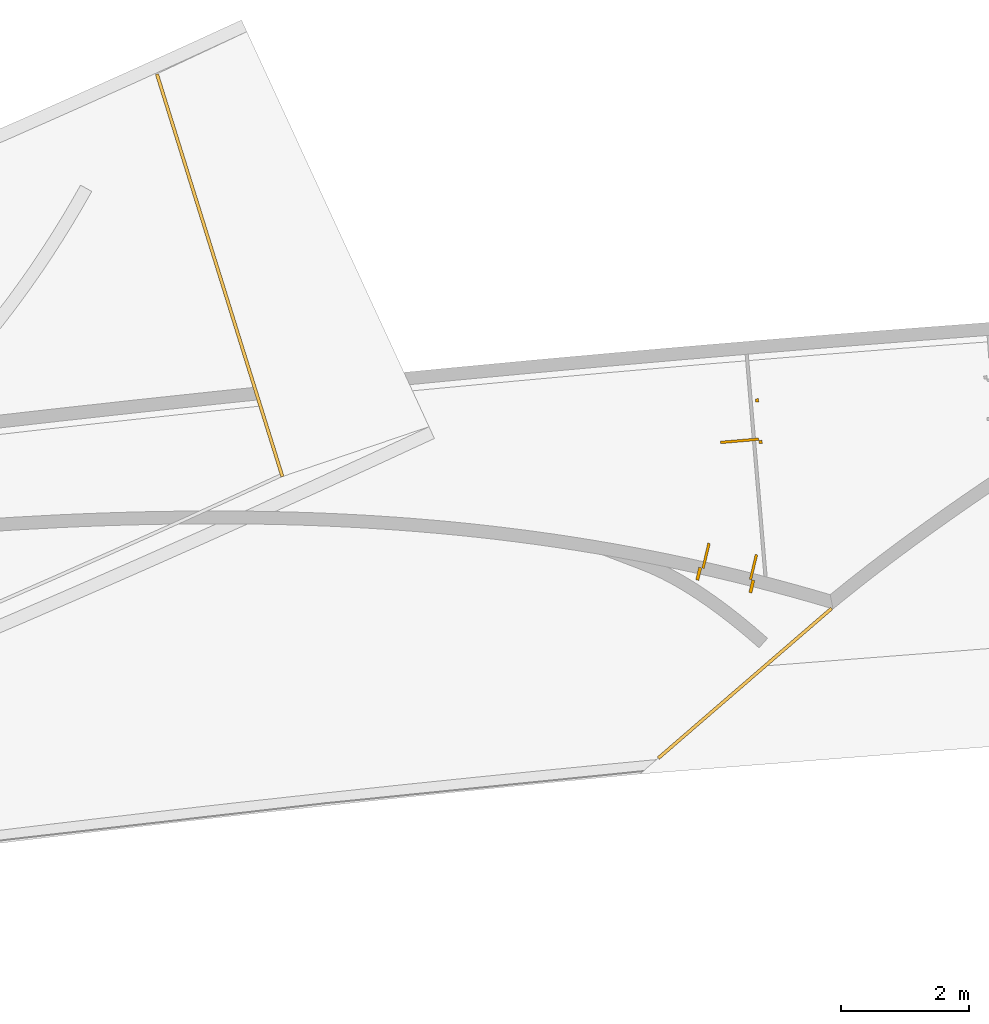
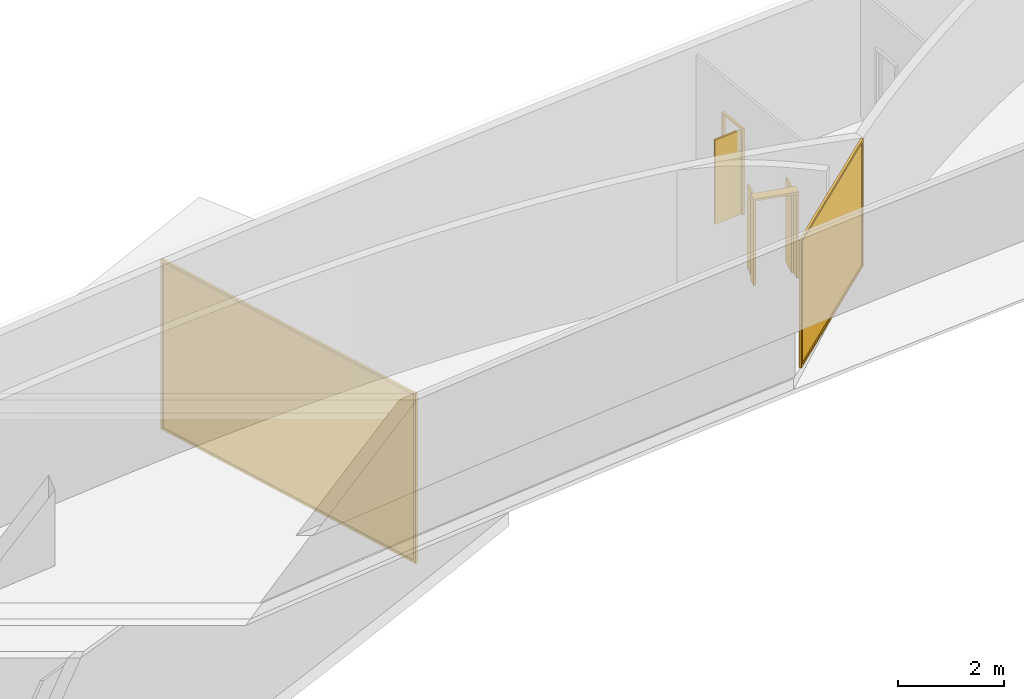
# Not in any storey, part 15 of 16: 2 curtain walls, 2 doors.
"""IFC2X3 model written with IfcOpenShell, lengths in millimetres."""

from ifc_helpers import new_model, entity, si_unit, converted_unit, direction, frame, origin_with_axes, place, context, project, spatial, open_shell, faceted_brep, surface_model, source, transform, mapped, type_object, element, save


model = new_model("IFC2X3")

# Units and contexts
model_context = context("Model", 3, precision=1.0, world=origin_with_axes(), true_north=direction((0.0, 1.0)))
ifc_project = project(units=[converted_unit("PLANEANGLEUNIT", "DEGREE", entity("IfcRatioMeasure", 0.017453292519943), si_unit("PLANEANGLEUNIT", "RADIAN"), dimensions=[0, 0, 0, 0, 0, 0, 0]), si_unit("LENGTHUNIT", "METRE", prefix="MILLI")], contexts=[model_context])

# Site
site_placement = place(None, origin_with_axes())
site = spatial("IfcSite", under=ifc_project, at=site_placement, Name="Site", CompositionType="ELEMENT")

# Doors
door_style_1 = type_object("IfcDoorStyle", Name="Hinged Double", ConstructionType="NOTDEFINED", OperationType="DOUBLE_DOOR_SINGLE_SWING", ParameterTakesPrecedence=True, Sizeable=False)
shared_shape_1 = source(origin_with_axes(), model_context, "Body", "Brep", [
    faceted_brep([(-400.0, -100.0, 975.0), (-400.0, -100.0, 0.0), (-400.0, 0.0, 0.0), (-400.0, 100.0, 0.0), (-400.0, 100.0, 975.0), (-400.0, 100.0, 1950.0), (-400.0, -100.0, 1950.0), (-400.0, -100.0, 1950.0), (-400.0, 100.0, 1950.0), (-3.638e-12, 100.0, 1950.0), (400.0, 100.0, 1950.0), (400.0, -100.0, 1950.0), (0.0, -100.0, 1950.0), (400.0, -100.0, 1950.0), (400.0, 100.0, 1950.0), (400.0, 100.0, 975.0), (400.0, 100.0, 0.0), (400.0, 0.0, 0.0), (400.0, -100.0, 0.0), (400.0, -100.0, 975.0), (400.0, -100.0, 0.0), (450.0, -100.0, 0.0), (450.0, -100.0, 1000.0), (450.0, -100.0, 2000.0), (0.0, -100.0, 2000.0), (-450.0, -100.0, 2000.0), (-450.0, -100.0, 1000.0), (-450.0, -100.0, 0.0), (-400.0, -100.0, 0.0), (-400.0, -100.0, 975.0), (-400.0, -100.0, 1950.0), (0.0, -100.0, 1950.0), (400.0, -100.0, 1950.0), (400.0, -100.0, 975.0), (-450.0, -100.0, 2000.0), (-450.0, 100.0, 2000.0), (-450.0, 100.0, 1000.0), (-450.0, 100.0, 0.0), (-450.0, 0.0, 0.0), (-450.0, -100.0, 0.0), (-450.0, -100.0, 1000.0), (-400.0, -100.0, 0.0), (-450.0, -100.0, 0.0), (-450.0, 0.0, 0.0), (-450.0, 100.0, 0.0), (-400.0, 100.0, 0.0), (-400.0, 0.0, 0.0), (450.0, 100.0, 0.0), (400.0, 100.0, 0.0), (400.0, 100.0, 975.0), (400.0, 100.0, 1950.0), (-3.638e-12, 100.0, 1950.0), (-400.0, 100.0, 1950.0), (-400.0, 100.0, 975.0), (-400.0, 100.0, 0.0), (-450.0, 100.0, 0.0), (-450.0, 100.0, 1000.0), (-450.0, 100.0, 2000.0), (-3.638e-12, 100.0, 2000.0), (450.0, 100.0, 2000.0), (450.0, 100.0, 1000.0), (450.0, -100.0, 0.0), (400.0, -100.0, 0.0), (400.0, 0.0, 0.0), (400.0, 100.0, 0.0), (450.0, 100.0, 0.0), (450.0, 0.0, 0.0), (450.0, -100.0, 2000.0), (450.0, 100.0, 2000.0), (-3.638e-12, 100.0, 2000.0), (-450.0, 100.0, 2000.0), (-450.0, -100.0, 2000.0), (0.0, -100.0, 2000.0), (450.0, -100.0, 1000.0), (450.0, -100.0, 0.0), (450.0, 0.0, 0.0), (450.0, 100.0, 0.0), (450.0, 100.0, 1000.0), (450.0, 100.0, 2000.0), (450.0, -100.0, 2000.0)], [[[0, 1, 2, 3, 4, 5, 6]], [[7, 8, 9, 10, 11, 12]], [[13, 14, 15, 16, 17, 18, 19]], [[20, 21, 22, 23, 24, 25, 26, 27, 28, 29, 30, 31, 32, 33]], [[34, 35, 36, 37, 38, 39, 40]], [[41, 42, 43, 44, 45, 46]], [[47, 48, 49, 50, 51, 52, 53, 54, 55, 56, 57, 58, 59, 60]], [[61, 62, 63, 64, 65, 66]], [[67, 68, 69, 70, 71, 72]], [[73, 74, 75, 76, 77, 78, 79]]]),
    faceted_brep([(360.0, 100.0, 1950.0), (400.0, 100.0, 1950.0), (400.0, 300.0, 1950.0), (400.0, 500.0, 1950.0), (360.0, 500.0, 1950.0), (360.0, 300.0, 1950.0), (360.0, 500.0, 0.0), (400.0, 500.0, 0.0), (400.0, 300.0, 0.0), (400.0, 100.0, 0.0), (360.0, 100.0, 0.0), (360.0, 300.0, 0.0), (360.0, 500.0, 1950.0), (400.0, 500.0, 1950.0), (400.0, 500.0, 975.0), (400.0, 500.0, 0.0), (360.0, 500.0, 0.0), (360.0, 500.0, 975.0), (360.0, 100.0, 0.0), (400.0, 100.0, 0.0), (400.0, 100.0, 975.0), (400.0, 100.0, 1950.0), (360.0, 100.0, 1950.0), (360.0, 100.0, 975.0), (360.0, 500.0, 975.0), (360.0, 500.0, 0.0), (360.0, 300.0, 0.0), (360.0, 100.0, 0.0), (360.0, 100.0, 975.0), (360.0, 100.0, 1950.0), (360.0, 300.0, 1950.0), (360.0, 500.0, 1950.0), (400.0, 100.0, 975.0), (400.0, 100.0, 0.0), (400.0, 300.0, 0.0), (400.0, 500.0, 0.0), (400.0, 500.0, 975.0), (400.0, 500.0, 1950.0), (400.0, 300.0, 1950.0), (400.0, 100.0, 1950.0)], [[[0, 1, 2, 3, 4, 5]], [[6, 7, 8, 9, 10, 11]], [[12, 13, 14, 15, 16, 17]], [[18, 19, 20, 21, 22, 23]], [[24, 25, 26, 27, 28, 29, 30, 31]], [[32, 33, 34, 35, 36, 37, 38, 39]]]),
    faceted_brep([(-360.0, 100.0, 1950.0), (-400.0, 100.0, 1950.0), (-400.0, 100.0, 975.0), (-400.0, 100.0, 0.0), (-360.0, 100.0, 0.0), (-360.0, 100.0, 975.0), (-360.0, 100.0, 0.0), (-400.0, 100.0, 0.0), (-400.0, 300.0, 0.0), (-400.0, 500.0, 0.0), (-360.0, 500.0, 0.0), (-360.0, 300.0, 0.0), (-400.0, 100.0, 975.0), (-400.0, 100.0, 1950.0), (-400.0, 300.0, 1950.0), (-400.0, 500.0, 1950.0), (-400.0, 500.0, 975.0), (-400.0, 500.0, 0.0), (-400.0, 300.0, 0.0), (-400.0, 100.0, 0.0), (-360.0, 500.0, 1950.0), (-400.0, 500.0, 1950.0), (-400.0, 300.0, 1950.0), (-400.0, 100.0, 1950.0), (-360.0, 100.0, 1950.0), (-360.0, 300.0, 1950.0), (-360.0, 500.0, 975.0), (-360.0, 500.0, 1950.0), (-360.0, 300.0, 1950.0), (-360.0, 100.0, 1950.0), (-360.0, 100.0, 975.0), (-360.0, 100.0, 0.0), (-360.0, 300.0, 0.0), (-360.0, 500.0, 0.0), (-360.0, 500.0, 0.0), (-400.0, 500.0, 0.0), (-400.0, 500.0, 975.0), (-400.0, 500.0, 1950.0), (-360.0, 500.0, 1950.0), (-360.0, 500.0, 975.0)], [[[0, 1, 2, 3, 4, 5]], [[6, 7, 8, 9, 10, 11]], [[12, 13, 14, 15, 16, 17, 18, 19]], [[20, 21, 22, 23, 24, 25]], [[26, 27, 28, 29, 30, 31, 32, 33]], [[34, 35, 36, 37, 38, 39]]]),
])
door_1_placement = place(site_placement, frame((41443.7975790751, 10267.3469635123, 9850.00000000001), z_axis=(0.0, 0.0, 1.0), x_axis=(0.972727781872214, -0.231949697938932, 0.0)))
element("IfcDoor", 1, at=door_1_placement, inside=site, type_object=door_style_1, ObjectType="Hinged Double", OverallHeight=2000.0, OverallWidth=900.0, context=model_context, shape_type="MappedRepresentation", body=[
    mapped(shared_shape_1, transform((0.0, 0.0, 0.0))),
])
door_style_2 = type_object("IfcDoorStyle", Name="Hinged", ConstructionType="NOTDEFINED", OperationType="SINGLE_SWING_RIGHT", ParameterTakesPrecedence=True, Sizeable=False)
shared_shape_2 = source(origin_with_axes(), model_context, "Body", "Brep", [
    faceted_brep([(-260.0, 25.0, 0.0), (-300.0, 25.0, 0.0), (-300.0, 325.0, 0.0), (-300.0, 625.0, 0.0), (-260.0, 625.0, 0.0), (-260.0, 325.0, 0.0), (-260.0, 25.0, 1950.0), (-300.0, 25.0, 1950.0), (-300.0, 25.0, 975.0), (-300.0, 25.0, 0.0), (-260.0, 25.0, 0.0), (-260.0, 25.0, 975.0), (-260.0, 625.0, 0.0), (-300.0, 625.0, 0.0), (-300.0, 625.0, 975.0), (-300.0, 625.0, 1950.0), (-260.0, 625.0, 1950.0), (-260.0, 625.0, 975.0), (-260.0, 625.0, 975.0), (-260.0, 625.0, 1950.0), (-260.0, 325.0, 1950.0), (-260.0, 25.0, 1950.0), (-260.0, 25.0, 975.0), (-260.0, 25.0, 0.0), (-260.0, 325.0, 0.0), (-260.0, 625.0, 0.0), (-260.0, 625.0, 1950.0), (-300.0, 625.0, 1950.0), (-300.0, 325.0, 1950.0), (-300.0, 25.0, 1950.0), (-260.0, 25.0, 1950.0), (-260.0, 325.0, 1950.0), (-300.0, 625.0, 0.0), (-300.0, 325.0, 0.0), (-300.0, 25.0, 0.0), (-300.0, 25.0, 975.0), (-300.0, 25.0, 1950.0), (-300.0, 325.0, 1950.0), (-300.0, 625.0, 1950.0), (-300.0, 625.0, 975.0)], [[[0, 1, 2, 3, 4, 5]], [[6, 7, 8, 9, 10, 11]], [[12, 13, 14, 15, 16, 17]], [[18, 19, 20, 21, 22, 23, 24, 25]], [[26, 27, 28, 29, 30, 31]], [[32, 33, 34, 35, 36, 37, 38, 39]]]),
    faceted_brep([(-300.0, -25.0, 1950.0), (-300.0, 25.0, 1950.0), (-2.728e-12, 25.0, 1950.0), (300.0, 25.0, 1950.0), (300.0, -25.0, 1950.0), (-9.09e-13, -25.0, 1950.0), (300.0, -25.0, 1950.0), (300.0, 25.0, 1950.0), (300.0, 25.0, 975.0), (300.0, 25.0, 0.0), (300.0, 0.0, 0.0), (300.0, -25.0, 0.0), (300.0, -25.0, 975.0), (350.0, -25.0, 0.0), (350.0, -25.0, 1000.0), (350.0, -25.0, 2000.0), (0.0, -25.0, 2000.0), (-350.0, -25.0, 2000.0), (-350.0, -25.0, 1000.0), (-350.0, -25.0, 0.0), (-325.0, -25.0, 0.0), (-300.0, -25.0, 0.0), (-300.0, -25.0, 975.0), (-300.0, -25.0, 1950.0), (-9.09e-13, -25.0, 1950.0), (300.0, -25.0, 1950.0), (300.0, -25.0, 975.0), (300.0, -25.0, 0.0), (325.0, -25.0, 0.0), (-300.0, -25.0, 975.0), (-300.0, -25.0, 0.0), (-300.0, 0.0, 0.0), (-300.0, 25.0, 0.0), (-300.0, 25.0, 975.0), (-300.0, 25.0, 1950.0), (-300.0, -25.0, 1950.0), (350.0, -25.0, 1000.0), (350.0, -25.0, 0.0), (350.0, -3.638e-12, 0.0), (350.0, 25.0, 0.0), (350.0, 25.0, 1000.0), (350.0, 25.0, 2000.0), (350.0, -25.0, 2000.0), (350.0, 25.0, 1000.0), (350.0, 25.0, 0.0), (325.0, 25.0, 0.0), (300.0, 25.0, 0.0), (300.0, 25.0, 975.0), (300.0, 25.0, 1950.0), (-2.728e-12, 25.0, 1950.0), (-300.0, 25.0, 1950.0), (-300.0, 25.0, 975.0), (-300.0, 25.0, 0.0), (-325.0, 25.0, 0.0), (-350.0, 25.0, 0.0), (-350.0, 25.0, 1000.0), (-350.0, 25.0, 2000.0), (-1.819e-12, 25.0, 2000.0), (350.0, 25.0, 2000.0), (-325.0, -25.0, 0.0), (-350.0, -25.0, 0.0), (-350.0, 0.0, 0.0), (-350.0, 25.0, 0.0), (-325.0, 25.0, 0.0), (-300.0, 25.0, 0.0), (-300.0, 0.0, 0.0), (-300.0, -25.0, 0.0), (350.0, -25.0, 2000.0), (350.0, 25.0, 2000.0), (-1.819e-12, 25.0, 2000.0), (-350.0, 25.0, 2000.0), (-350.0, -25.0, 2000.0), (0.0, -25.0, 2000.0), (-350.0, -25.0, 2000.0), (-350.0, 25.0, 2000.0), (-350.0, 25.0, 1000.0), (-350.0, 25.0, 0.0), (-350.0, 0.0, 0.0), (-350.0, -25.0, 0.0), (-350.0, -25.0, 1000.0), (325.0, -25.0, 0.0), (300.0, -25.0, 0.0), (300.0, 0.0, 0.0), (300.0, 25.0, 0.0), (325.0, 25.0, 0.0), (350.0, 25.0, 0.0), (350.0, -3.638e-12, 0.0), (350.0, -25.0, 0.0)], [[[0, 1, 2, 3, 4, 5]], [[6, 7, 8, 9, 10, 11, 12]], [[13, 14, 15, 16, 17, 18, 19, 20, 21, 22, 23, 24, 25, 26, 27, 28]], [[29, 30, 31, 32, 33, 34, 35]], [[36, 37, 38, 39, 40, 41, 42]], [[43, 44, 45, 46, 47, 48, 49, 50, 51, 52, 53, 54, 55, 56, 57, 58]], [[59, 60, 61, 62, 63, 64, 65, 66]], [[67, 68, 69, 70, 71, 72]], [[73, 74, 75, 76, 77, 78, 79]], [[80, 81, 82, 83, 84, 85, 86, 87]]]),
])
door_2_placement = place(site_placement, frame((41966.0721324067, 12745.1993192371, 9850.0), z_axis=(0.0, 0.0, 1.0), x_axis=(-0.084519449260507, 0.996421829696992, 0.0)))
element("IfcDoor", 2, at=door_2_placement, inside=site, type_object=door_style_2, ObjectType="Hinged", OverallHeight=2000.0, OverallWidth=700.0, context=model_context, shape_type="MappedRepresentation", body=[
    mapped(shared_shape_2, transform((0.0, 0.0, 0.0))),
])

# Curtain walls
curtain_wall_type = type_object("IfcCurtainWallType", Name="Single Panel", PredefinedType="USERDEFINED")
shared_shape_3 = source(origin_with_axes(), model_context, "Body", "SurfaceModel", [
    surface_model("IfcShellBasedSurfaceModel", [(0.0, 0.0, 2850.0), (0.0, 0.0, 0.0), (3468.23583984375, 0.0, 0.0), (3468.23583984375, 0.0, 2850.0)], [open_shell([[[0, 1, 2, 3]]])]),
])
shared_shape_4 = source(origin_with_axes(), model_context, "Body", "Brep", [
    faceted_brep([(43082.9921875, 9844.701171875, 12750.0), (43115.6875, 9806.8720703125, 12750.0), (43077.859375, 9774.1767578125, 12750.0), (41765.8515625, 8640.2421875, 12750.0), (40453.84765625, 7506.3076171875, 12750.0), (40416.01953125, 7473.61279296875, 12750.0), (40383.32421875, 7511.44189453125, 12750.0), (40421.15234375, 7544.13671875, 12750.0), (41733.15625, 8678.0712890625, 12750.0), (43045.1640625, 9812.005859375, 12750.0), (43115.6875, 9806.8720703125, 12800.0), (43082.9921875, 9844.701171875, 12800.0), (41733.15625, 8678.0712890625, 12800.0), (40383.32421875, 7511.44189453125, 12800.0), (40416.01953125, 7473.61279296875, 12800.0), (41765.8515625, 8640.2421875, 12800.0), (43082.9921875, 9844.701171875, 12800.0), (43082.9921875, 9844.701171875, 12750.0), (43045.1640625, 9812.005859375, 12750.0), (41733.15625, 8678.0712890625, 12750.0), (40421.15234375, 7544.13671875, 12750.0), (40383.32421875, 7511.44189453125, 12750.0), (40383.32421875, 7511.44189453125, 12800.0), (41733.15625, 8678.0712890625, 12800.0), (43115.6875, 9806.8720703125, 12750.0), (43082.9921875, 9844.701171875, 12750.0), (43082.9921875, 9844.701171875, 12800.0), (43115.6875, 9806.8720703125, 12800.0), (43115.6875, 9806.8720703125, 12750.0), (43115.6875, 9806.8720703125, 12800.0), (41765.8515625, 8640.2421875, 12800.0), (40416.01953125, 7473.61279296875, 12800.0), (40416.01953125, 7473.61279296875, 12750.0), (40453.84765625, 7506.3076171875, 12750.0), (41765.8515625, 8640.2421875, 12750.0), (43077.859375, 9774.1767578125, 12750.0), (40383.32421875, 7511.44189453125, 12750.0), (40416.01953125, 7473.61279296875, 12750.0), (40416.01953125, 7473.61279296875, 12800.0), (40383.32421875, 7511.44189453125, 12800.0)], [[[0, 1, 2, 3, 4, 5, 6, 7, 8, 9]], [[10, 11, 12, 13, 14, 15]], [[16, 17, 18, 19, 20, 21, 22, 23]], [[24, 25, 26, 27]], [[28, 29, 30, 31, 32, 33, 34, 35]], [[36, 37, 38, 39]]]),
    faceted_brep([(43045.1640625, 9812.005859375, 9900.0), (43061.51171875, 9793.091796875, 9900.0), (43077.859375, 9774.1767578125, 9900.0), (43077.859375, 9774.1767578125, 11325.0), (43077.859375, 9774.1767578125, 12750.0), (43061.51171875, 9793.091796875, 12750.0), (43045.1640625, 9812.005859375, 12750.0), (43045.1640625, 9812.005859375, 11325.0), (43077.859375, 9774.1767578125, 9900.0), (43096.7734375, 9790.5244140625, 9900.0), (43115.6875, 9806.8720703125, 9900.0), (43115.6875, 9806.8720703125, 11325.0), (43115.6875, 9806.8720703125, 12750.0), (43096.7734375, 9790.5244140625, 12750.0), (43077.859375, 9774.1767578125, 12750.0), (43077.859375, 9774.1767578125, 11325.0), (43115.6875, 9806.8720703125, 9900.0), (43082.9921875, 9844.701171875, 9900.0), (43082.9921875, 9844.701171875, 11325.0), (43082.9921875, 9844.701171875, 12750.0), (43115.6875, 9806.8720703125, 12750.0), (43115.6875, 9806.8720703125, 11325.0), (43077.859375, 9774.1767578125, 9900.0), (43061.51171875, 9793.091796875, 9900.0), (43045.1640625, 9812.005859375, 9900.0), (43064.078125, 9828.353515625, 9900.0), (43082.9921875, 9844.701171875, 9900.0), (43115.6875, 9806.8720703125, 9900.0), (43096.7734375, 9790.5244140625, 9900.0), (43077.859375, 9774.1767578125, 12750.0), (43096.7734375, 9790.5244140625, 12750.0), (43115.6875, 9806.8720703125, 12750.0), (43082.9921875, 9844.701171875, 12750.0), (43064.078125, 9828.353515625, 12750.0), (43045.1640625, 9812.005859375, 12750.0), (43061.51171875, 9793.091796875, 12750.0), (43082.9921875, 9844.701171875, 9900.0), (43064.078125, 9828.353515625, 9900.0), (43045.1640625, 9812.005859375, 9900.0), (43045.1640625, 9812.005859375, 11325.0), (43045.1640625, 9812.005859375, 12750.0), (43064.078125, 9828.353515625, 12750.0), (43082.9921875, 9844.701171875, 12750.0), (43082.9921875, 9844.701171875, 11325.0)], [[[0, 1, 2, 3, 4, 5, 6, 7]], [[8, 9, 10, 11, 12, 13, 14, 15]], [[16, 17, 18, 19, 20, 21]], [[22, 23, 24, 25, 26, 27, 28]], [[29, 30, 31, 32, 33, 34, 35]], [[36, 37, 38, 39, 40, 41, 42, 43]]]),
    faceted_brep([(43082.9921875, 9844.701171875, 9900.0), (43082.9921875, 9844.701171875, 9850.0), (41733.15625, 8678.0712890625, 9850.0), (40383.32421875, 7511.44189453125, 9850.0), (40383.32421875, 7511.44189453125, 9900.0), (40421.15234375, 7544.13671875, 9900.0), (41733.15625, 8678.0712890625, 9900.0), (43045.1640625, 9812.005859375, 9900.0), (43115.6875, 9806.8720703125, 9850.0), (43115.6875, 9806.8720703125, 9900.0), (43077.859375, 9774.1767578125, 9900.0), (41765.8515625, 8640.2421875, 9900.0), (40453.84765625, 7506.3076171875, 9900.0), (40416.01953125, 7473.61279296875, 9900.0), (40416.01953125, 7473.61279296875, 9850.0), (41765.8515625, 8640.2421875, 9850.0), (43115.6875, 9806.8720703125, 9900.0), (43082.9921875, 9844.701171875, 9900.0), (43045.1640625, 9812.005859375, 9900.0), (41733.15625, 8678.0712890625, 9900.0), (40421.15234375, 7544.13671875, 9900.0), (40383.32421875, 7511.44189453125, 9900.0), (40416.01953125, 7473.61279296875, 9900.0), (40453.84765625, 7506.3076171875, 9900.0), (41765.8515625, 8640.2421875, 9900.0), (43077.859375, 9774.1767578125, 9900.0), (43082.9921875, 9844.701171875, 9850.0), (43115.6875, 9806.8720703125, 9850.0), (41765.8515625, 8640.2421875, 9850.0), (40416.01953125, 7473.61279296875, 9850.0), (40383.32421875, 7511.44189453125, 9850.0), (41733.15625, 8678.0712890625, 9850.0), (43082.9921875, 9844.701171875, 9900.0), (43115.6875, 9806.8720703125, 9900.0), (43115.6875, 9806.8720703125, 9850.0), (43082.9921875, 9844.701171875, 9850.0), (40416.01953125, 7473.61279296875, 9900.0), (40383.32421875, 7511.44189453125, 9900.0), (40383.32421875, 7511.44189453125, 9850.0), (40416.01953125, 7473.61279296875, 9850.0)], [[[0, 1, 2, 3, 4, 5, 6, 7]], [[8, 9, 10, 11, 12, 13, 14, 15]], [[16, 17, 18, 19, 20, 21, 22, 23, 24, 25]], [[26, 27, 28, 29, 30, 31]], [[32, 33, 34, 35]], [[36, 37, 38, 39]]]),
    faceted_brep([(40416.01953125, 7473.61279296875, 9900.0), (40453.84765625, 7506.3076171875, 9900.0), (40453.84765625, 7506.3076171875, 11325.0), (40453.84765625, 7506.3076171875, 12750.0), (40416.01953125, 7473.61279296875, 12750.0), (40416.01953125, 7473.61279296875, 11325.0), (40383.32421875, 7511.44189453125, 9900.0), (40416.01953125, 7473.61279296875, 9900.0), (40416.01953125, 7473.61279296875, 11325.0), (40416.01953125, 7473.61279296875, 12750.0), (40383.32421875, 7511.44189453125, 12750.0), (40383.32421875, 7511.44189453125, 11325.0), (40421.15234375, 7544.13671875, 9900.0), (40383.32421875, 7511.44189453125, 9900.0), (40383.32421875, 7511.44189453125, 11325.0), (40383.32421875, 7511.44189453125, 12750.0), (40421.15234375, 7544.13671875, 12750.0), (40421.15234375, 7544.13671875, 11325.0), (40453.84765625, 7506.3076171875, 9900.0), (40421.15234375, 7544.13671875, 9900.0), (40421.15234375, 7544.13671875, 11325.0), (40421.15234375, 7544.13671875, 12750.0), (40453.84765625, 7506.3076171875, 12750.0), (40453.84765625, 7506.3076171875, 11325.0), (40453.84765625, 7506.3076171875, 12750.0), (40421.15234375, 7544.13671875, 12750.0), (40383.32421875, 7511.44189453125, 12750.0), (40416.01953125, 7473.61279296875, 12750.0), (40421.15234375, 7544.13671875, 9900.0), (40453.84765625, 7506.3076171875, 9900.0), (40416.01953125, 7473.61279296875, 9900.0), (40383.32421875, 7511.44189453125, 9900.0)], [[[0, 1, 2, 3, 4, 5]], [[6, 7, 8, 9, 10, 11]], [[12, 13, 14, 15, 16, 17]], [[18, 19, 20, 21, 22, 23]], [[24, 25, 26, 27]], [[28, 29, 30, 31]]]),
])
shared_shape_5 = source(origin_with_axes(), model_context, "Body", "MappedRepresentation", [
    mapped(shared_shape_3, transform((43061.5100533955, 9793.09171349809, 9900.0), x_axis=(-0.756583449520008, -0.653897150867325, 0.0), y_axis=(0.653897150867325, -0.756583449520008, 0.0), scale=1.0)),
    mapped(shared_shape_4, transform((0.0, 0.0, 0.0))),
])
curtain_wall_1_placement = place(site_placement, origin_with_axes())
element("IfcCurtainWall", 3, at=curtain_wall_1_placement, inside=site, type_object=curtain_wall_type, ObjectType="Single Panel", context=model_context, shape_type="MappedRepresentation", body=[
    mapped(shared_shape_5, transform((0.0, 0.0, 0.0))),
])
shared_shape_6 = source(origin_with_axes(), model_context, "Body", "SurfaceModel", [
    surface_model("IfcShellBasedSurfaceModel", [(34526.41796875, 11929.65625, 8600.0), (34526.41796875, 11929.65625, 4770.0), (32601.486328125, 18104.86328125, 4770.0), (32601.486328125, 18104.86328125, 8600.0)], [open_shell([[[0, 1, 2, 3]]])]),
])
shared_shape_7 = source(origin_with_axes(), model_context, "Body", "Brep", [
    faceted_brep([(34565.1640625, 11889.361328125, 4770.0), (34517.4296875, 11874.4814453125, 4770.0), (34517.4296875, 11874.4814453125, 4720.0), (34565.1640625, 11889.361328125, 4720.0), (32562.73828125, 18145.158203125, 4770.0), (32610.47265625, 18160.0390625, 4770.0), (32610.47265625, 18160.0390625, 4720.0), (32562.73828125, 18145.158203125, 4720.0), (34517.4296875, 11874.4814453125, 4770.0), (34565.1640625, 11889.361328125, 4770.0), (34550.28515625, 11937.095703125, 4770.0), (33587.8203125, 15024.7001953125, 4770.0), (32625.353515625, 18112.3046875, 4770.0), (32610.47265625, 18160.0390625, 4770.0), (32562.73828125, 18145.158203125, 4770.0), (32577.619140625, 18097.423828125, 4770.0), (33540.0859375, 15009.8203125, 4770.0), (34502.55078125, 11922.2158203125, 4770.0), (34565.1640625, 11889.361328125, 4720.0), (34517.4296875, 11874.4814453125, 4720.0), (33540.0859375, 15009.8203125, 4720.0), (32562.73828125, 18145.158203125, 4720.0), (32610.47265625, 18160.0390625, 4720.0), (33587.8203125, 15024.7001953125, 4720.0), (34517.4296875, 11874.4814453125, 4720.0), (34517.4296875, 11874.4814453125, 4770.0), (34502.55078125, 11922.2158203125, 4770.0), (33540.0859375, 15009.8203125, 4770.0), (32577.619140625, 18097.423828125, 4770.0), (32562.73828125, 18145.158203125, 4770.0), (32562.73828125, 18145.158203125, 4720.0), (33540.0859375, 15009.8203125, 4720.0), (34565.1640625, 11889.361328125, 4770.0), (34565.1640625, 11889.361328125, 4720.0), (33587.8203125, 15024.7001953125, 4720.0), (32610.47265625, 18160.0390625, 4720.0), (32610.47265625, 18160.0390625, 4770.0), (32625.353515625, 18112.3046875, 4770.0), (33587.8203125, 15024.7001953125, 4770.0), (34550.28515625, 11937.095703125, 4770.0)], [[[0, 1, 2, 3]], [[4, 5, 6, 7]], [[8, 9, 10, 11, 12, 13, 14, 15, 16, 17]], [[18, 19, 20, 21, 22, 23]], [[24, 25, 26, 27, 28, 29, 30, 31]], [[32, 33, 34, 35, 36, 37, 38, 39]]]),
    faceted_brep([(32562.73828125, 18145.158203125, 4770.0), (32577.619140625, 18097.423828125, 4770.0), (32577.619140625, 18097.423828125, 6685.0), (32577.619140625, 18097.423828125, 8600.0), (32562.73828125, 18145.158203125, 8600.0), (32562.73828125, 18145.158203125, 6685.0), (32610.47265625, 18160.0390625, 4770.0), (32562.73828125, 18145.158203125, 4770.0), (32562.73828125, 18145.158203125, 6685.0), (32562.73828125, 18145.158203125, 8600.0), (32610.47265625, 18160.0390625, 8600.0), (32610.47265625, 18160.0390625, 6685.0), (32625.353515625, 18112.3046875, 4770.0), (32577.619140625, 18097.423828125, 4770.0), (32562.73828125, 18145.158203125, 4770.0), (32610.47265625, 18160.0390625, 4770.0), (32577.619140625, 18097.423828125, 8600.0), (32625.353515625, 18112.3046875, 8600.0), (32610.47265625, 18160.0390625, 8600.0), (32562.73828125, 18145.158203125, 8600.0), (32577.619140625, 18097.423828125, 4770.0), (32625.353515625, 18112.3046875, 4770.0), (32625.353515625, 18112.3046875, 6685.0), (32625.353515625, 18112.3046875, 8600.0), (32577.619140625, 18097.423828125, 8600.0), (32577.619140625, 18097.423828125, 6685.0), (32625.353515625, 18112.3046875, 4770.0), (32610.47265625, 18160.0390625, 4770.0), (32610.47265625, 18160.0390625, 6685.0), (32610.47265625, 18160.0390625, 8600.0), (32625.353515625, 18112.3046875, 8600.0), (32625.353515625, 18112.3046875, 6685.0)], [[[0, 1, 2, 3, 4, 5]], [[6, 7, 8, 9, 10, 11]], [[12, 13, 14, 15]], [[16, 17, 18, 19]], [[20, 21, 22, 23, 24, 25]], [[26, 27, 28, 29, 30, 31]]]),
    faceted_brep([(34517.4296875, 11874.4814453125, 8600.0), (34517.4296875, 11874.4814453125, 8650.0), (33540.0859375, 15009.8203125, 8650.0), (32562.73828125, 18145.158203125, 8650.0), (32562.73828125, 18145.158203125, 8600.0), (32577.619140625, 18097.423828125, 8600.0), (33540.0859375, 15009.8203125, 8600.0), (34502.55078125, 11922.2158203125, 8600.0), (34565.1640625, 11889.361328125, 8600.0), (34517.4296875, 11874.4814453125, 8600.0), (34502.55078125, 11922.2158203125, 8600.0), (33540.0859375, 15009.8203125, 8600.0), (32577.619140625, 18097.423828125, 8600.0), (32562.73828125, 18145.158203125, 8600.0), (32610.47265625, 18160.0390625, 8600.0), (32625.353515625, 18112.3046875, 8600.0), (33587.8203125, 15024.7001953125, 8600.0), (34550.28515625, 11937.095703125, 8600.0), (32610.47265625, 18160.0390625, 8600.0), (32562.73828125, 18145.158203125, 8600.0), (32562.73828125, 18145.158203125, 8650.0), (32610.47265625, 18160.0390625, 8650.0), (34517.4296875, 11874.4814453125, 8600.0), (34565.1640625, 11889.361328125, 8600.0), (34565.1640625, 11889.361328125, 8650.0), (34517.4296875, 11874.4814453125, 8650.0), (34565.1640625, 11889.361328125, 8650.0), (34565.1640625, 11889.361328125, 8600.0), (34550.28515625, 11937.095703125, 8600.0), (33587.8203125, 15024.7001953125, 8600.0), (32625.353515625, 18112.3046875, 8600.0), (32610.47265625, 18160.0390625, 8600.0), (32610.47265625, 18160.0390625, 8650.0), (33587.8203125, 15024.7001953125, 8650.0), (34517.4296875, 11874.4814453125, 8650.0), (34565.1640625, 11889.361328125, 8650.0), (33587.8203125, 15024.7001953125, 8650.0), (32610.47265625, 18160.0390625, 8650.0), (32562.73828125, 18145.158203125, 8650.0), (33540.0859375, 15009.8203125, 8650.0)], [[[0, 1, 2, 3, 4, 5, 6, 7]], [[8, 9, 10, 11, 12, 13, 14, 15, 16, 17]], [[18, 19, 20, 21]], [[22, 23, 24, 25]], [[26, 27, 28, 29, 30, 31, 32, 33]], [[34, 35, 36, 37, 38, 39]]]),
    faceted_brep([(34517.4296875, 11874.4814453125, 4770.0), (34541.296875, 11881.9208984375, 4770.0), (34565.1640625, 11889.361328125, 4770.0), (34565.1640625, 11889.361328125, 6685.0), (34565.1640625, 11889.361328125, 8600.0), (34541.296875, 11881.9208984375, 8600.0), (34517.4296875, 11874.4814453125, 8600.0), (34517.4296875, 11874.4814453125, 6685.0), (34502.55078125, 11922.2158203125, 4770.0), (34509.98828125, 11898.3486328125, 4770.0), (34517.4296875, 11874.4814453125, 4770.0), (34517.4296875, 11874.4814453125, 6685.0), (34517.4296875, 11874.4814453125, 8600.0), (34509.98828125, 11898.3486328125, 8600.0), (34502.55078125, 11922.2158203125, 8600.0), (34502.55078125, 11922.2158203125, 6685.0), (34550.28515625, 11937.095703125, 4770.0), (34526.41796875, 11929.65625, 4770.0), (34502.55078125, 11922.2158203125, 4770.0), (34502.55078125, 11922.2158203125, 6685.0), (34502.55078125, 11922.2158203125, 8600.0), (34526.41796875, 11929.65625, 8600.0), (34550.28515625, 11937.095703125, 8600.0), (34550.28515625, 11937.095703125, 6685.0), (34502.55078125, 11922.2158203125, 8600.0), (34509.98828125, 11898.3486328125, 8600.0), (34517.4296875, 11874.4814453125, 8600.0), (34541.296875, 11881.9208984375, 8600.0), (34565.1640625, 11889.361328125, 8600.0), (34557.72265625, 11913.228515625, 8600.0), (34550.28515625, 11937.095703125, 8600.0), (34526.41796875, 11929.65625, 8600.0), (34565.1640625, 11889.361328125, 4770.0), (34557.72265625, 11913.228515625, 4770.0), (34550.28515625, 11937.095703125, 4770.0), (34550.28515625, 11937.095703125, 6685.0), (34550.28515625, 11937.095703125, 8600.0), (34557.72265625, 11913.228515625, 8600.0), (34565.1640625, 11889.361328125, 8600.0), (34565.1640625, 11889.361328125, 6685.0), (34502.55078125, 11922.2158203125, 4770.0), (34526.41796875, 11929.65625, 4770.0), (34550.28515625, 11937.095703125, 4770.0), (34557.72265625, 11913.228515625, 4770.0), (34565.1640625, 11889.361328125, 4770.0), (34541.296875, 11881.9208984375, 4770.0), (34517.4296875, 11874.4814453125, 4770.0), (34509.98828125, 11898.3486328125, 4770.0)], [[[0, 1, 2, 3, 4, 5, 6, 7]], [[8, 9, 10, 11, 12, 13, 14, 15]], [[16, 17, 18, 19, 20, 21, 22, 23]], [[24, 25, 26, 27, 28, 29, 30, 31]], [[32, 33, 34, 35, 36, 37, 38, 39]], [[40, 41, 42, 43, 44, 45, 46, 47]]]),
])
shared_shape_8 = source(origin_with_axes(), model_context, "Body", "MappedRepresentation", [
    mapped(shared_shape_6, transform((0.0, 0.0, 0.0))),
    mapped(shared_shape_7, transform((0.0, 0.0, 0.0))),
])
curtain_wall_2_placement = place(site_placement, origin_with_axes())
element("IfcCurtainWall", 4, at=curtain_wall_2_placement, inside=site, type_object=curtain_wall_type, ObjectType="Single Panel", context=model_context, shape_type="MappedRepresentation", body=[
    mapped(shared_shape_8, transform((0.0, 0.0, 0.0))),
])

save(model, "model.ifc")
